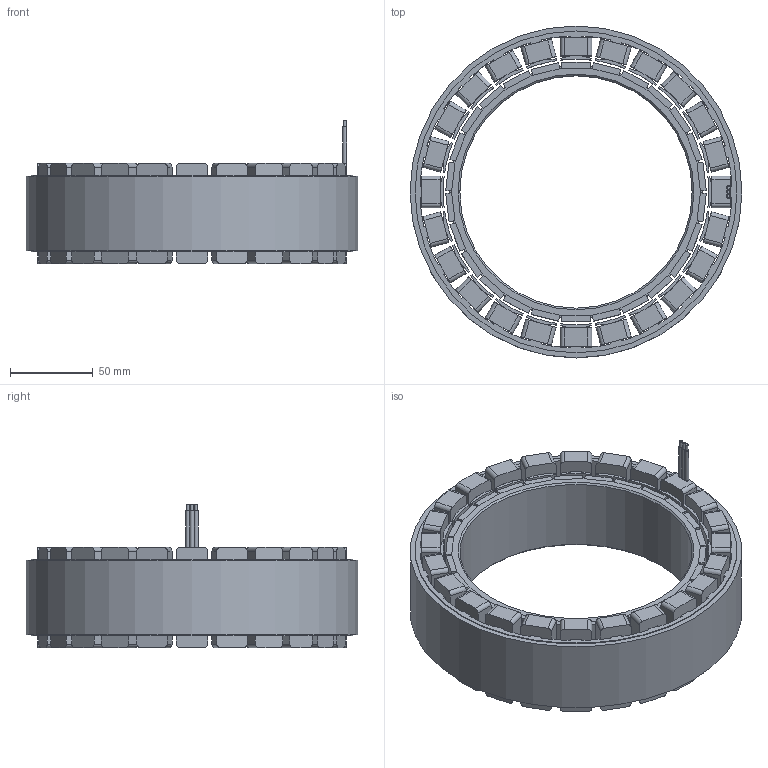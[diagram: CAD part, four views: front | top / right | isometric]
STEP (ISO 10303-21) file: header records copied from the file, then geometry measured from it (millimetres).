
FILE_DESCRIPTION (( 'STEP AP214' ), '1' );
FILE_NAME ('20060萇儂.STEP', '2024-08-29T03:31:46', ( '' ), ( '' ), 'SwSTEP 2.0', 'SolidWorks 2023', '' );
FILE_SCHEMA (( 'AUTOMOTIVE_DESIGN' ));
Length unit declared in the file: millimetre
Products named in the file (1): 20060电机
Bounding box: 200 x 200 x 86.6 mm (x, y, z)
Surface area: 237029.5 mm2 (no closed solid volume)
Topology: 0 solids, 56 shells, 537 faces, 2102 edges, 1594 vertices
Faces by surface type: plane 381, cylinder 154, cone 2
Full cylindrical faces by diameter (mm): 1.8 x3, 2.5 x3, 140 x1, 194 x2, 200 x1
Entity records: 21934 total; most frequent: CARTESIAN_POINT 4214, DIRECTION 3716, ORIENTED_EDGE 3263, EDGE_CURVE 2086, VERTEX_POINT 1590, LINE 1532, VECTOR 1532, AXIS2_PLACEMENT_3D 1092
